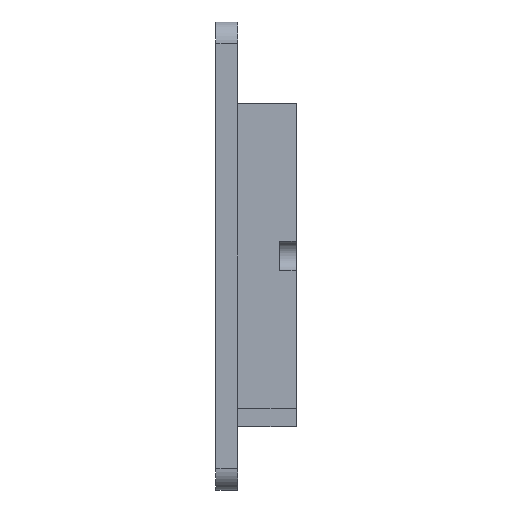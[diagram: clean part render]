
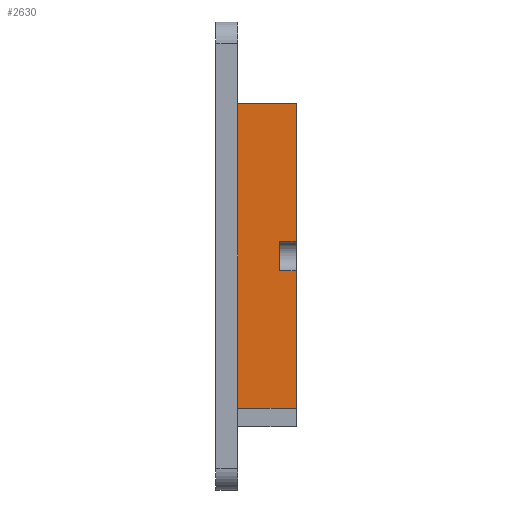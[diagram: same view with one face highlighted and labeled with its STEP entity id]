
A CAD part, left-side view. The second image highlights one B-rep face of the part: STEP entity #2630.
In plain terms, the highlighted planar face has unit normal (-1, 0, 0).
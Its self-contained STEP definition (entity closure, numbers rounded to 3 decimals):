
#44 = PLANE('',#45);
#45 = AXIS2_PLACEMENT_3D('',#46,#47,#48);
#46 = CARTESIAN_POINT('',(31.,-1.,43.));
#47 = DIRECTION('',(0.,1.,0.));
#48 = DIRECTION('',(0.,-0.,1.));
#511 = VERTEX_POINT('',#512);
#512 = CARTESIAN_POINT('',(13.4,-1.,63.85));
#525 = PLANE('',#526);
#526 = AXIS2_PLACEMENT_3D('',#527,#528,#529);
#527 = CARTESIAN_POINT('',(13.4,-9.,63.85));
#528 = DIRECTION('',(0.,0.,1.));
#529 = DIRECTION('',(1.,0.,0.));
#536 = EDGE_CURVE('',#511,#537,#539,.T.);
#537 = VERTEX_POINT('',#538);
#538 = CARTESIAN_POINT('',(13.4,-1.,22.15));
#539 = SURFACE_CURVE('',#540,(#544,#550),.PCURVE_S1.);
#540 = LINE('',#541,#542);
#541 = CARTESIAN_POINT('',(13.4,-1.,32.575));
#542 = VECTOR('',#543,1.);
#543 = DIRECTION('',(0.,0.,-1.));
#544 = PCURVE('',#44,#545);
#545 = DEFINITIONAL_REPRESENTATION('',(#546),#549);
#546 = B_SPLINE_CURVE_WITH_KNOTS('',1,(#547,#548),.UNSPECIFIED.,.F.,.F.,
  (2,2),(-31.275,10.425),.PIECEWISE_BEZIER_KNOTS.);
#547 = CARTESIAN_POINT('',(20.85,-17.6));
#548 = CARTESIAN_POINT('',(-20.85,-17.6));
#549 = ( GEOMETRIC_REPRESENTATION_CONTEXT(2) 
PARAMETRIC_REPRESENTATION_CONTEXT() REPRESENTATION_CONTEXT('2D SPACE',''
  ) );
#550 = PCURVE('',#551,#556);
#551 = PLANE('',#552);
#552 = AXIS2_PLACEMENT_3D('',#553,#554,#555);
#553 = CARTESIAN_POINT('',(13.4,-9.,22.15));
#554 = DIRECTION('',(1.,0.,0.));
#555 = DIRECTION('',(0.,0.,1.));
#556 = DEFINITIONAL_REPRESENTATION('',(#557),#560);
#557 = B_SPLINE_CURVE_WITH_KNOTS('',1,(#558,#559),.UNSPECIFIED.,.F.,.F.,
  (2,2),(-31.275,10.425),.PIECEWISE_BEZIER_KNOTS.);
#558 = CARTESIAN_POINT('',(41.7,-8.));
#559 = CARTESIAN_POINT('',(0.,-8.));
#560 = ( GEOMETRIC_REPRESENTATION_CONTEXT(2) 
PARAMETRIC_REPRESENTATION_CONTEXT() REPRESENTATION_CONTEXT('2D SPACE',''
  ) );
#577 = PLANE('',#578);
#578 = AXIS2_PLACEMENT_3D('',#579,#580,#581);
#579 = CARTESIAN_POINT('',(13.4,-9.,22.15));
#580 = DIRECTION('',(0.,0.,1.));
#581 = DIRECTION('',(1.,0.,0.));
#1849 = PLANE('',#1850);
#1850 = AXIS2_PLACEMENT_3D('',#1851,#1852,#1853);
#1851 = CARTESIAN_POINT('',(43.4,-9.,22.15));
#1852 = DIRECTION('',(0.,1.,0.));
#1853 = DIRECTION('',(0.,0.,1.));
#2587 = EDGE_CURVE('',#2588,#537,#2590,.T.);
#2588 = VERTEX_POINT('',#2589);
#2589 = CARTESIAN_POINT('',(13.4,-9.,22.15));
#2590 = SURFACE_CURVE('',#2591,(#2595,#2602),.PCURVE_S1.);
#2591 = LINE('',#2592,#2593);
#2592 = CARTESIAN_POINT('',(13.4,-9.,22.15));
#2593 = VECTOR('',#2594,1.);
#2594 = DIRECTION('',(0.,1.,0.));
#2595 = PCURVE('',#577,#2596);
#2596 = DEFINITIONAL_REPRESENTATION('',(#2597),#2601);
#2597 = LINE('',#2598,#2599);
#2598 = CARTESIAN_POINT('',(0.,0.));
#2599 = VECTOR('',#2600,1.);
#2600 = DIRECTION('',(0.,1.));
#2601 = ( GEOMETRIC_REPRESENTATION_CONTEXT(2) 
PARAMETRIC_REPRESENTATION_CONTEXT() REPRESENTATION_CONTEXT('2D SPACE',''
  ) );
#2602 = PCURVE('',#551,#2603);
#2603 = DEFINITIONAL_REPRESENTATION('',(#2604),#2608);
#2604 = LINE('',#2605,#2606);
#2605 = CARTESIAN_POINT('',(0.,0.));
#2606 = VECTOR('',#2607,1.);
#2607 = DIRECTION('',(0.,-1.));
#2608 = ( GEOMETRIC_REPRESENTATION_CONTEXT(2) 
PARAMETRIC_REPRESENTATION_CONTEXT() REPRESENTATION_CONTEXT('2D SPACE',''
  ) );
#2630 = ADVANCED_FACE('',(#2631),#551,.F.);
#2631 = FACE_BOUND('',#2632,.F.);
#2632 = EDGE_LOOP('',(#2633,#2656,#2679,#2705,#2731,#2752,#2773,#2774));
#2633 = ORIENTED_EDGE('',*,*,#2634,.F.);
#2634 = EDGE_CURVE('',#2635,#511,#2637,.T.);
#2635 = VERTEX_POINT('',#2636);
#2636 = CARTESIAN_POINT('',(13.4,-9.,63.85));
#2637 = SURFACE_CURVE('',#2638,(#2642,#2649),.PCURVE_S1.);
#2638 = LINE('',#2639,#2640);
#2639 = CARTESIAN_POINT('',(13.4,-9.,63.85));
#2640 = VECTOR('',#2641,1.);
#2641 = DIRECTION('',(0.,1.,0.));
#2642 = PCURVE('',#551,#2643);
#2643 = DEFINITIONAL_REPRESENTATION('',(#2644),#2648);
#2644 = LINE('',#2645,#2646);
#2645 = CARTESIAN_POINT('',(41.7,0.));
#2646 = VECTOR('',#2647,1.);
#2647 = DIRECTION('',(0.,-1.));
#2648 = ( GEOMETRIC_REPRESENTATION_CONTEXT(2) 
PARAMETRIC_REPRESENTATION_CONTEXT() REPRESENTATION_CONTEXT('2D SPACE',''
  ) );
#2649 = PCURVE('',#525,#2650);
#2650 = DEFINITIONAL_REPRESENTATION('',(#2651),#2655);
#2651 = LINE('',#2652,#2653);
#2652 = CARTESIAN_POINT('',(0.,0.));
#2653 = VECTOR('',#2654,1.);
#2654 = DIRECTION('',(0.,1.));
#2655 = ( GEOMETRIC_REPRESENTATION_CONTEXT(2) 
PARAMETRIC_REPRESENTATION_CONTEXT() REPRESENTATION_CONTEXT('2D SPACE',''
  ) );
#2656 = ORIENTED_EDGE('',*,*,#2657,.F.);
#2657 = EDGE_CURVE('',#2658,#2635,#2660,.T.);
#2658 = VERTEX_POINT('',#2659);
#2659 = CARTESIAN_POINT('',(13.4,-9.,45.012));
#2660 = SURFACE_CURVE('',#2661,(#2665,#2672),.PCURVE_S1.);
#2661 = LINE('',#2662,#2663);
#2662 = CARTESIAN_POINT('',(13.4,-9.,22.15));
#2663 = VECTOR('',#2664,1.);
#2664 = DIRECTION('',(0.,0.,1.));
#2665 = PCURVE('',#551,#2666);
#2666 = DEFINITIONAL_REPRESENTATION('',(#2667),#2671);
#2667 = LINE('',#2668,#2669);
#2668 = CARTESIAN_POINT('',(0.,0.));
#2669 = VECTOR('',#2670,1.);
#2670 = DIRECTION('',(1.,0.));
#2671 = ( GEOMETRIC_REPRESENTATION_CONTEXT(2) 
PARAMETRIC_REPRESENTATION_CONTEXT() REPRESENTATION_CONTEXT('2D SPACE',''
  ) );
#2672 = PCURVE('',#1849,#2673);
#2673 = DEFINITIONAL_REPRESENTATION('',(#2674),#2678);
#2674 = LINE('',#2675,#2676);
#2675 = CARTESIAN_POINT('',(0.,-30.));
#2676 = VECTOR('',#2677,1.);
#2677 = DIRECTION('',(1.,0.));
#2678 = ( GEOMETRIC_REPRESENTATION_CONTEXT(2) 
PARAMETRIC_REPRESENTATION_CONTEXT() REPRESENTATION_CONTEXT('2D SPACE',''
  ) );
#2679 = ORIENTED_EDGE('',*,*,#2680,.T.);
#2680 = EDGE_CURVE('',#2658,#2681,#2683,.T.);
#2681 = VERTEX_POINT('',#2682);
#2682 = CARTESIAN_POINT('',(13.4,-6.7,45.012));
#2683 = SURFACE_CURVE('',#2684,(#2688,#2694),.PCURVE_S1.);
#2684 = LINE('',#2685,#2686);
#2685 = CARTESIAN_POINT('',(13.4,-9.1,45.012));
#2686 = VECTOR('',#2687,1.);
#2687 = DIRECTION('',(0.,1.,0.));
#2688 = PCURVE('',#551,#2689);
#2689 = DEFINITIONAL_REPRESENTATION('',(#2690),#2693);
#2690 = B_SPLINE_CURVE_WITH_KNOTS('',1,(#2691,#2692),.UNSPECIFIED.,.F.,
  .F.,(2,2),(0.,2.4),.PIECEWISE_BEZIER_KNOTS.);
#2691 = CARTESIAN_POINT('',(22.862,0.1));
#2692 = CARTESIAN_POINT('',(22.862,-2.3));
#2693 = ( GEOMETRIC_REPRESENTATION_CONTEXT(2) 
PARAMETRIC_REPRESENTATION_CONTEXT() REPRESENTATION_CONTEXT('2D SPACE',''
  ) );
#2694 = PCURVE('',#2695,#2700);
#2695 = CYLINDRICAL_SURFACE('',#2696,2.1);
#2696 = AXIS2_PLACEMENT_3D('',#2697,#2698,#2699);
#2697 = CARTESIAN_POINT('',(14.,-9.1,43.));
#2698 = DIRECTION('',(0.,1.,0.));
#2699 = DIRECTION('',(0.,-0.,1.));
#2700 = DEFINITIONAL_REPRESENTATION('',(#2701),#2704);
#2701 = B_SPLINE_CURVE_WITH_KNOTS('',1,(#2702,#2703),.UNSPECIFIED.,.F.,
  .F.,(2,2),(0.1,2.4),.PIECEWISE_BEZIER_KNOTS.);
#2702 = CARTESIAN_POINT('',(5.993,0.1));
#2703 = CARTESIAN_POINT('',(5.993,2.4));
#2704 = ( GEOMETRIC_REPRESENTATION_CONTEXT(2) 
PARAMETRIC_REPRESENTATION_CONTEXT() REPRESENTATION_CONTEXT('2D SPACE',''
  ) );
#2705 = ORIENTED_EDGE('',*,*,#2706,.F.);
#2706 = EDGE_CURVE('',#2707,#2681,#2709,.T.);
#2707 = VERTEX_POINT('',#2708);
#2708 = CARTESIAN_POINT('',(13.4,-6.7,40.988));
#2709 = SURFACE_CURVE('',#2710,(#2714,#2720),.PCURVE_S1.);
#2710 = LINE('',#2711,#2712);
#2711 = CARTESIAN_POINT('',(13.4,-6.7,32.575));
#2712 = VECTOR('',#2713,1.);
#2713 = DIRECTION('',(0.,0.,1.));
#2714 = PCURVE('',#551,#2715);
#2715 = DEFINITIONAL_REPRESENTATION('',(#2716),#2719);
#2716 = B_SPLINE_CURVE_WITH_KNOTS('',1,(#2717,#2718),.UNSPECIFIED.,.F.,
  .F.,(2,2),(8.325,12.525),.PIECEWISE_BEZIER_KNOTS.);
#2717 = CARTESIAN_POINT('',(18.75,-2.3));
#2718 = CARTESIAN_POINT('',(22.95,-2.3));
#2719 = ( GEOMETRIC_REPRESENTATION_CONTEXT(2) 
PARAMETRIC_REPRESENTATION_CONTEXT() REPRESENTATION_CONTEXT('2D SPACE',''
  ) );
#2720 = PCURVE('',#2721,#2726);
#2721 = PLANE('',#2722);
#2722 = AXIS2_PLACEMENT_3D('',#2723,#2724,#2725);
#2723 = CARTESIAN_POINT('',(14.,-6.7,43.));
#2724 = DIRECTION('',(0.,1.,0.));
#2725 = DIRECTION('',(0.,-0.,1.));
#2726 = DEFINITIONAL_REPRESENTATION('',(#2727),#2730);
#2727 = B_SPLINE_CURVE_WITH_KNOTS('',1,(#2728,#2729),.UNSPECIFIED.,.F.,
  .F.,(2,2),(8.325,12.525),.PIECEWISE_BEZIER_KNOTS.);
#2728 = CARTESIAN_POINT('',(-2.1,-0.6));
#2729 = CARTESIAN_POINT('',(2.1,-0.6));
#2730 = ( GEOMETRIC_REPRESENTATION_CONTEXT(2) 
PARAMETRIC_REPRESENTATION_CONTEXT() REPRESENTATION_CONTEXT('2D SPACE',''
  ) );
#2731 = ORIENTED_EDGE('',*,*,#2732,.F.);
#2732 = EDGE_CURVE('',#2733,#2707,#2735,.T.);
#2733 = VERTEX_POINT('',#2734);
#2734 = CARTESIAN_POINT('',(13.4,-9.,40.988));
#2735 = SURFACE_CURVE('',#2736,(#2740,#2746),.PCURVE_S1.);
#2736 = LINE('',#2737,#2738);
#2737 = CARTESIAN_POINT('',(13.4,-9.1,40.988));
#2738 = VECTOR('',#2739,1.);
#2739 = DIRECTION('',(0.,1.,0.));
#2740 = PCURVE('',#551,#2741);
#2741 = DEFINITIONAL_REPRESENTATION('',(#2742),#2745);
#2742 = B_SPLINE_CURVE_WITH_KNOTS('',1,(#2743,#2744),.UNSPECIFIED.,.F.,
  .F.,(2,2),(0.,2.4),.PIECEWISE_BEZIER_KNOTS.);
#2743 = CARTESIAN_POINT('',(18.838,0.1));
#2744 = CARTESIAN_POINT('',(18.838,-2.3));
#2745 = ( GEOMETRIC_REPRESENTATION_CONTEXT(2) 
PARAMETRIC_REPRESENTATION_CONTEXT() REPRESENTATION_CONTEXT('2D SPACE',''
  ) );
#2746 = PCURVE('',#2695,#2747);
#2747 = DEFINITIONAL_REPRESENTATION('',(#2748),#2751);
#2748 = B_SPLINE_CURVE_WITH_KNOTS('',1,(#2749,#2750),.UNSPECIFIED.,.F.,
  .F.,(2,2),(0.1,2.4),.PIECEWISE_BEZIER_KNOTS.);
#2749 = CARTESIAN_POINT('',(9.715,0.1));
#2750 = CARTESIAN_POINT('',(9.715,2.4));
#2751 = ( GEOMETRIC_REPRESENTATION_CONTEXT(2) 
PARAMETRIC_REPRESENTATION_CONTEXT() REPRESENTATION_CONTEXT('2D SPACE',''
  ) );
#2752 = ORIENTED_EDGE('',*,*,#2753,.F.);
#2753 = EDGE_CURVE('',#2588,#2733,#2754,.T.);
#2754 = SURFACE_CURVE('',#2755,(#2759,#2766),.PCURVE_S1.);
#2755 = LINE('',#2756,#2757);
#2756 = CARTESIAN_POINT('',(13.4,-9.,22.15));
#2757 = VECTOR('',#2758,1.);
#2758 = DIRECTION('',(0.,0.,1.));
#2759 = PCURVE('',#551,#2760);
#2760 = DEFINITIONAL_REPRESENTATION('',(#2761),#2765);
#2761 = LINE('',#2762,#2763);
#2762 = CARTESIAN_POINT('',(0.,0.));
#2763 = VECTOR('',#2764,1.);
#2764 = DIRECTION('',(1.,0.));
#2765 = ( GEOMETRIC_REPRESENTATION_CONTEXT(2) 
PARAMETRIC_REPRESENTATION_CONTEXT() REPRESENTATION_CONTEXT('2D SPACE',''
  ) );
#2766 = PCURVE('',#1849,#2767);
#2767 = DEFINITIONAL_REPRESENTATION('',(#2768),#2772);
#2768 = LINE('',#2769,#2770);
#2769 = CARTESIAN_POINT('',(0.,-30.));
#2770 = VECTOR('',#2771,1.);
#2771 = DIRECTION('',(1.,0.));
#2772 = ( GEOMETRIC_REPRESENTATION_CONTEXT(2) 
PARAMETRIC_REPRESENTATION_CONTEXT() REPRESENTATION_CONTEXT('2D SPACE',''
  ) );
#2773 = ORIENTED_EDGE('',*,*,#2587,.T.);
#2774 = ORIENTED_EDGE('',*,*,#536,.F.);
